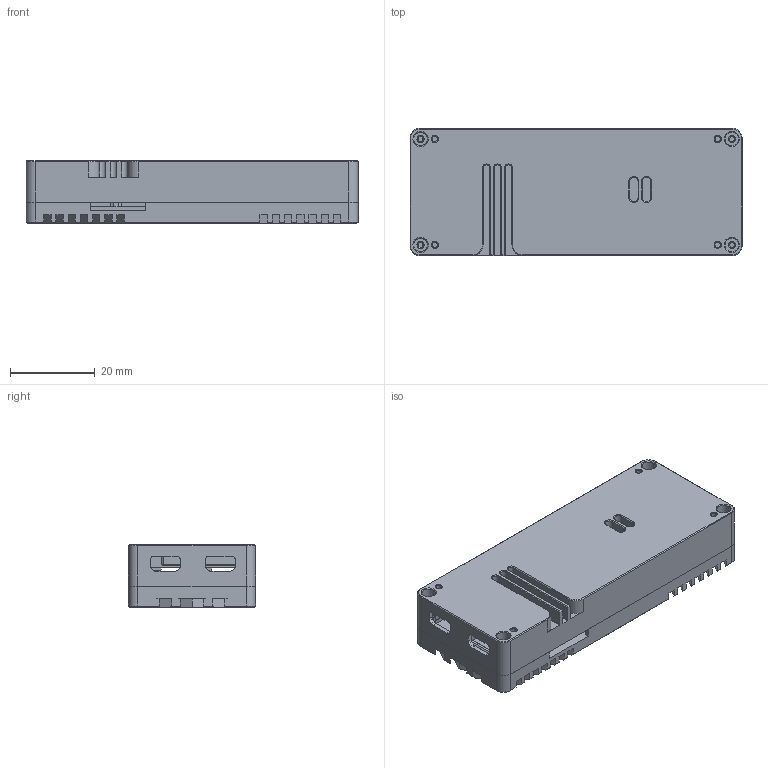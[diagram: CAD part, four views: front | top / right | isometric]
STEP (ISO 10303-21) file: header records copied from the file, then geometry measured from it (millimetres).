
FILE_DESCRIPTION (( 'STEP AP214' ), '1' );
FILE_NAME ('Herelink Airunit 1.1 Case.STEP', '2022-06-15T10:14:14', ( '' ), ( '' ), 'SwSTEP 2.0', 'SolidWorks 2018', '' );
FILE_SCHEMA (( 'AUTOMOTIVE_DESIGN' ));
Length unit declared in the file: millimetre
Products named in the file (1): Herelink Airunit 1.1 Case
Bounding box: 78.4 x 30 x 14.8 mm (x, y, z)
Volume: 9718.8 mm3; surface area: 19585.2 mm2
Topology: 3 solids, 3 shells, 1135 faces, 3135 edges, 2042 vertices
Faces by surface type: plane 687, cylinder 324, cone 105, bspline 19
Entity records: 48275 total; most frequent: CARTESIAN_POINT 7217, ORIENTED_EDGE 6270, DIRECTION 6093, EDGE_CURVE 3135, LINE 2243, VECTOR 2243, VERTEX_POINT 2042, AXIS2_PLACEMENT_3D 1925
